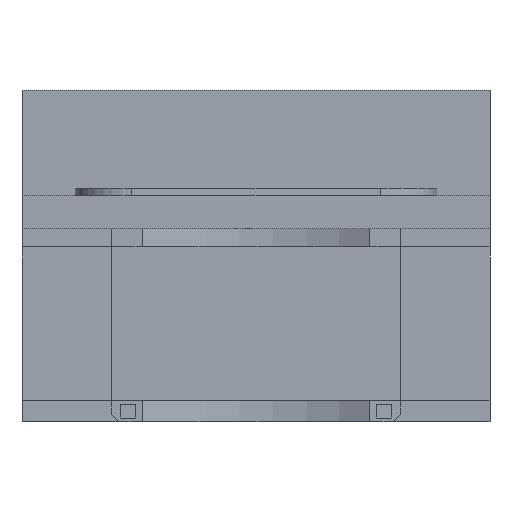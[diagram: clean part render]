
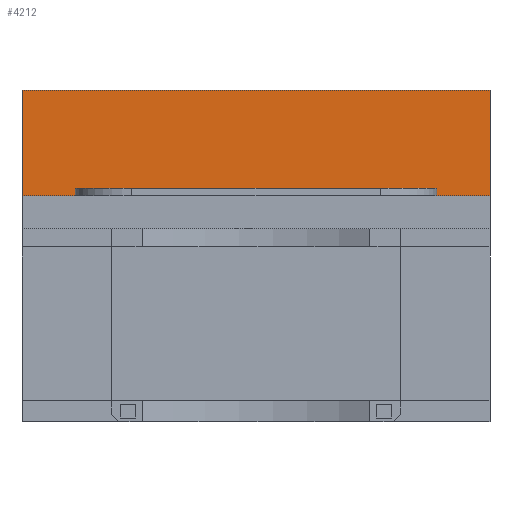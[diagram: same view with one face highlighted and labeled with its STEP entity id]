
A CAD part, front view. The second image highlights one B-rep face of the part: STEP entity #4212.
In plain terms, the highlighted planar face has unit normal (0, -1, 0).
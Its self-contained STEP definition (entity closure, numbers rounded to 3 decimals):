
#44 = PLANE('',#45);
#45 = AXIS2_PLACEMENT_3D('',#46,#47,#48);
#46 = CARTESIAN_POINT('',(31.05,-20.869,23.2));
#47 = DIRECTION('',(1.,0.,-0.));
#48 = DIRECTION('',(0.,0.,1.));
#324 = PLANE('',#325);
#325 = AXIS2_PLACEMENT_3D('',#326,#327,#328);
#326 = CARTESIAN_POINT('',(-31.05,-21.5,25.6));
#327 = DIRECTION('',(1.,0.,-0.));
#328 = DIRECTION('',(0.,0.,1.));
#743 = VERTEX_POINT('',#744);
#744 = CARTESIAN_POINT('',(31.05,23.,44.));
#758 = PLANE('',#759);
#759 = AXIS2_PLACEMENT_3D('',#760,#761,#762);
#760 = CARTESIAN_POINT('',(-31.05,23.,44.));
#761 = DIRECTION('',(0.,0.,1.));
#762 = DIRECTION('',(1.,0.,-0.));
#770 = EDGE_CURVE('',#771,#743,#773,.T.);
#771 = VERTEX_POINT('',#772);
#772 = CARTESIAN_POINT('',(31.05,23.,30.));
#773 = SURFACE_CURVE('',#774,(#778,#785),.PCURVE_S1.);
#774 = LINE('',#775,#776);
#775 = CARTESIAN_POINT('',(31.05,23.,29.8));
#776 = VECTOR('',#777,1.);
#777 = DIRECTION('',(0.,0.,1.));
#778 = PCURVE('',#44,#779);
#779 = DEFINITIONAL_REPRESENTATION('',(#780),#784);
#780 = LINE('',#781,#782);
#781 = CARTESIAN_POINT('',(6.6,-43.869));
#782 = VECTOR('',#783,1.);
#783 = DIRECTION('',(1.,0.));
#784 = ( GEOMETRIC_REPRESENTATION_CONTEXT(2) 
PARAMETRIC_REPRESENTATION_CONTEXT() REPRESENTATION_CONTEXT('2D SPACE',''
  ) );
#785 = PCURVE('',#786,#791);
#786 = PLANE('',#787);
#787 = AXIS2_PLACEMENT_3D('',#788,#789,#790);
#788 = CARTESIAN_POINT('',(-31.05,23.,29.8));
#789 = DIRECTION('',(-0.,1.,0.));
#790 = DIRECTION('',(0.,0.,1.));
#791 = DEFINITIONAL_REPRESENTATION('',(#792),#796);
#792 = LINE('',#793,#794);
#793 = CARTESIAN_POINT('',(0.,62.1));
#794 = VECTOR('',#795,1.);
#795 = DIRECTION('',(1.,0.));
#796 = ( GEOMETRIC_REPRESENTATION_CONTEXT(2) 
PARAMETRIC_REPRESENTATION_CONTEXT() REPRESENTATION_CONTEXT('2D SPACE',''
  ) );
#814 = PLANE('',#815);
#815 = AXIS2_PLACEMENT_3D('',#816,#817,#818);
#816 = CARTESIAN_POINT('',(-31.05,-21.5,30.));
#817 = DIRECTION('',(0.,0.,1.));
#818 = DIRECTION('',(1.,0.,-0.));
#1574 = VERTEX_POINT('',#1575);
#1575 = CARTESIAN_POINT('',(-31.05,23.,30.));
#1869 = VERTEX_POINT('',#1870);
#1870 = CARTESIAN_POINT('',(-31.05,23.,44.));
#1891 = EDGE_CURVE('',#1574,#1869,#1892,.T.);
#1892 = SURFACE_CURVE('',#1893,(#1897,#1904),.PCURVE_S1.);
#1893 = LINE('',#1894,#1895);
#1894 = CARTESIAN_POINT('',(-31.05,23.,29.8));
#1895 = VECTOR('',#1896,1.);
#1896 = DIRECTION('',(0.,0.,1.));
#1897 = PCURVE('',#324,#1898);
#1898 = DEFINITIONAL_REPRESENTATION('',(#1899),#1903);
#1899 = LINE('',#1900,#1901);
#1900 = CARTESIAN_POINT('',(4.2,-44.5));
#1901 = VECTOR('',#1902,1.);
#1902 = DIRECTION('',(1.,0.));
#1903 = ( GEOMETRIC_REPRESENTATION_CONTEXT(2) 
PARAMETRIC_REPRESENTATION_CONTEXT() REPRESENTATION_CONTEXT('2D SPACE',''
  ) );
#1904 = PCURVE('',#786,#1905);
#1905 = DEFINITIONAL_REPRESENTATION('',(#1906),#1910);
#1906 = LINE('',#1907,#1908);
#1907 = CARTESIAN_POINT('',(0.,0.));
#1908 = VECTOR('',#1909,1.);
#1909 = DIRECTION('',(1.,0.));
#1910 = ( GEOMETRIC_REPRESENTATION_CONTEXT(2) 
PARAMETRIC_REPRESENTATION_CONTEXT() REPRESENTATION_CONTEXT('2D SPACE',''
  ) );
#2398 = EDGE_CURVE('',#771,#1574,#2399,.T.);
#2399 = SURFACE_CURVE('',#2400,(#2404,#2410),.PCURVE_S1.);
#2400 = LINE('',#2401,#2402);
#2401 = CARTESIAN_POINT('',(-31.05,23.,30.));
#2402 = VECTOR('',#2403,1.);
#2403 = DIRECTION('',(-1.,-0.,0.));
#2404 = PCURVE('',#814,#2405);
#2405 = DEFINITIONAL_REPRESENTATION('',(#2406),#2409);
#2406 = B_SPLINE_CURVE_WITH_KNOTS('',1,(#2407,#2408),.UNSPECIFIED.,.F.,
  .F.,(2,2),(-62.1,0.),.PIECEWISE_BEZIER_KNOTS.);
#2407 = CARTESIAN_POINT('',(62.1,44.5));
#2408 = CARTESIAN_POINT('',(0.,44.5));
#2409 = ( GEOMETRIC_REPRESENTATION_CONTEXT(2) 
PARAMETRIC_REPRESENTATION_CONTEXT() REPRESENTATION_CONTEXT('2D SPACE',''
  ) );
#2410 = PCURVE('',#786,#2411);
#2411 = DEFINITIONAL_REPRESENTATION('',(#2412),#2415);
#2412 = B_SPLINE_CURVE_WITH_KNOTS('',1,(#2413,#2414),.UNSPECIFIED.,.F.,
  .F.,(2,2),(-62.1,0.),.PIECEWISE_BEZIER_KNOTS.);
#2413 = CARTESIAN_POINT('',(0.2,62.1));
#2414 = CARTESIAN_POINT('',(0.2,0.));
#2415 = ( GEOMETRIC_REPRESENTATION_CONTEXT(2) 
PARAMETRIC_REPRESENTATION_CONTEXT() REPRESENTATION_CONTEXT('2D SPACE',''
  ) );
#4212 = ADVANCED_FACE('',(#4213),#786,.F.);
#4213 = FACE_BOUND('',#4214,.F.);
#4214 = EDGE_LOOP('',(#4215,#4216,#4217,#4218));
#4215 = ORIENTED_EDGE('',*,*,#770,.F.);
#4216 = ORIENTED_EDGE('',*,*,#2398,.T.);
#4217 = ORIENTED_EDGE('',*,*,#1891,.T.);
#4218 = ORIENTED_EDGE('',*,*,#4219,.T.);
#4219 = EDGE_CURVE('',#1869,#743,#4220,.T.);
#4220 = SURFACE_CURVE('',#4221,(#4225,#4232),.PCURVE_S1.);
#4221 = LINE('',#4222,#4223);
#4222 = CARTESIAN_POINT('',(-31.05,23.,44.));
#4223 = VECTOR('',#4224,1.);
#4224 = DIRECTION('',(1.,0.,-0.));
#4225 = PCURVE('',#786,#4226);
#4226 = DEFINITIONAL_REPRESENTATION('',(#4227),#4231);
#4227 = LINE('',#4228,#4229);
#4228 = CARTESIAN_POINT('',(14.2,0.));
#4229 = VECTOR('',#4230,1.);
#4230 = DIRECTION('',(0.,1.));
#4231 = ( GEOMETRIC_REPRESENTATION_CONTEXT(2) 
PARAMETRIC_REPRESENTATION_CONTEXT() REPRESENTATION_CONTEXT('2D SPACE',''
  ) );
#4232 = PCURVE('',#758,#4233);
#4233 = DEFINITIONAL_REPRESENTATION('',(#4234),#4238);
#4234 = LINE('',#4235,#4236);
#4235 = CARTESIAN_POINT('',(0.,0.));
#4236 = VECTOR('',#4237,1.);
#4237 = DIRECTION('',(1.,0.));
#4238 = ( GEOMETRIC_REPRESENTATION_CONTEXT(2) 
PARAMETRIC_REPRESENTATION_CONTEXT() REPRESENTATION_CONTEXT('2D SPACE',''
  ) );
